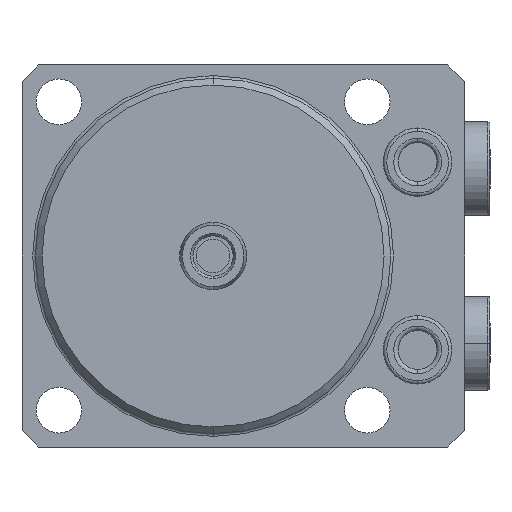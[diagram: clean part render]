
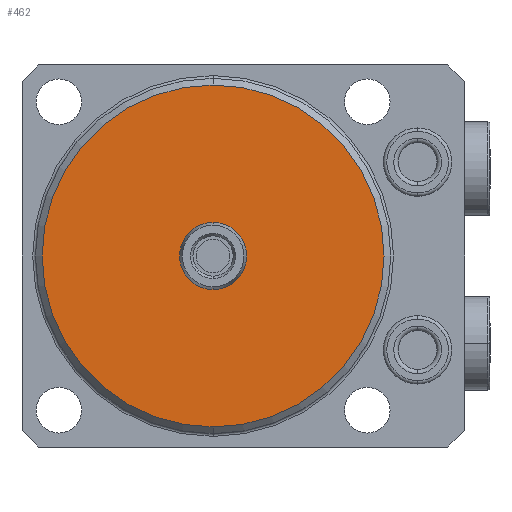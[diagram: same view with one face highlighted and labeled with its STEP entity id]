
A CAD part, front view. The second image highlights one B-rep face of the part: STEP entity #462.
In plain terms, the highlighted planar face has unit normal (0, -1, 0) as drawn and (0, 1, 0) by its records, which use the part's own axes.
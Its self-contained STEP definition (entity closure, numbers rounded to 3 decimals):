
#200=PLANE('',#4811);
#310=FACE_BOUND('',#1108,.F.);
#311=FACE_BOUND('',#1109,.F.);
#462=ADVANCED_FACE('',(#310,#311),#200,.T.);
#1108=EDGE_LOOP('',(#1967,#1968));
#1109=EDGE_LOOP('',(#1969,#1970));
#1390=CIRCLE('',#4694,5.);
#1445=CIRCLE('',#4772,25.5);
#1465=CIRCLE('',#4809,5.);
#1466=CIRCLE('',#4810,25.5);
#1967=ORIENTED_EDGE('',*,*,#3619,.T.);
#1968=ORIENTED_EDGE('',*,*,#3436,.T.);
#1969=ORIENTED_EDGE('',*,*,#3620,.T.);
#1970=ORIENTED_EDGE('',*,*,#3524,.T.);
#3008=VERTEX_POINT('',#6813);
#3009=VERTEX_POINT('',#6814);
#3080=VERTEX_POINT('',#7001);
#3081=VERTEX_POINT('',#7002);
#3436=EDGE_CURVE('',#3008,#3009,#1390,.T.);
#3524=EDGE_CURVE('',#3080,#3081,#1445,.T.);
#3619=EDGE_CURVE('',#3009,#3008,#1465,.T.);
#3620=EDGE_CURVE('',#3081,#3080,#1466,.T.);
#4694=AXIS2_PLACEMENT_3D('',#6812,#5338,#5339);
#4772=AXIS2_PLACEMENT_3D('',#7000,#5526,#5527);
#4809=AXIS2_PLACEMENT_3D('',#7272,#5650,#5651);
#4810=AXIS2_PLACEMENT_3D('',#7273,#5652,#5653);
#4811=AXIS2_PLACEMENT_3D('',#7274,#5654,#5655);
#5338=DIRECTION('',(0.,1.,0.));
#5339=DIRECTION('',(0.,0.,1.));
#5526=DIRECTION('',(0.,-1.,0.));
#5527=DIRECTION('',(0.,0.,1.));
#5650=DIRECTION('',(0.,1.,0.));
#5651=DIRECTION('',(0.,0.,1.));
#5652=DIRECTION('',(0.,-1.,0.));
#5653=DIRECTION('',(0.,0.,1.));
#5654=DIRECTION('',(0.,1.,0.));
#5655=DIRECTION('',(0.,0.,1.));
#6812=CARTESIAN_POINT('',(0.,-42.5,0.));
#6813=CARTESIAN_POINT('',(0.,-42.5,-5.));
#6814=CARTESIAN_POINT('',(0.,-42.5,5.));
#7000=CARTESIAN_POINT('',(0.,-42.5,0.));
#7001=CARTESIAN_POINT('',(0.,-42.5,-25.5));
#7002=CARTESIAN_POINT('',(0.,-42.5,25.5));
#7272=CARTESIAN_POINT('',(0.,-42.5,0.));
#7273=CARTESIAN_POINT('',(0.,-42.5,0.));
#7274=CARTESIAN_POINT('',(0.,-42.5,0.));
